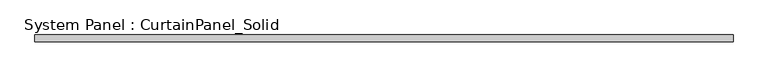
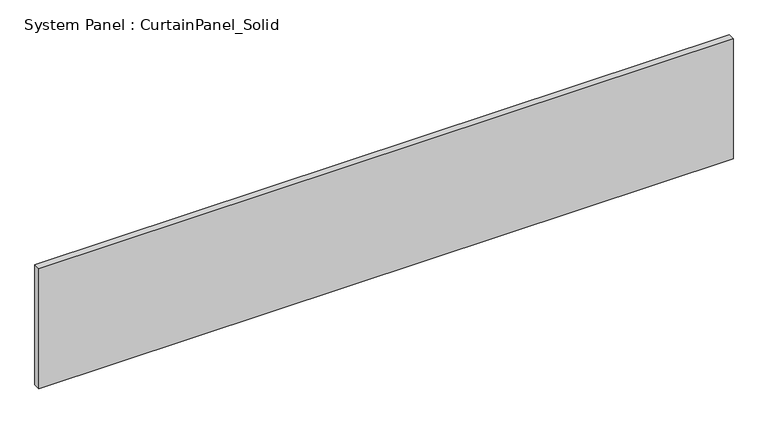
"""IFC4 building model written with IfcOpenShell, lengths in millimetres: plate geometry, System Panel : CurtainPanel_Solid."""

from ifc_helpers import new_model, si_unit, origin, origin_with_axes, place, context, project, spatial, polyline, outline, extrude, source, transform, mapped, element, save


def system_panel_curtainpanel_solid_2c86f8c4(model_context):
    return source(origin(), model_context, "Body", "SweptSolid", [
        extrude(outline(polyline([(1271.6666668, -12.5), (-1271.6666668, -12.5), (-1271.6666668, 12.5), (1271.6666668, 12.5), (1271.6666668, -12.5)])), origin_with_axes(), (0.0, 0.0, 1.0), 465.0),
    ])


if __name__ == "__main__":
    model = new_model("IFC4")
    model_context = context("Model", 3, world=origin())
    ifc_project = project(units=[si_unit("LENGTHUNIT", "METRE", prefix="MILLI")], contexts=[model_context])
    site = spatial("IfcSite", under=ifc_project)
    building = spatial("IfcBuilding", under=site)
    placement = place(None, origin())
    system_panel_curtainpanel_solid_shape = system_panel_curtainpanel_solid_2c86f8c4(model_context)
    element("IfcPlate", 1, ObjectType="System Panel : CurtainPanel_Solid", at=placement, inside=building, context=model_context, shape_type="MappedRepresentation", body=[
        mapped(system_panel_curtainpanel_solid_shape, transform((0.0, 0.0, 0.0), x_axis=(1.0, 0.0, 0.0), y_axis=(0.0, 1.0, 0.0), z_axis=(0.0, 0.0, 1.0))),
    ])
    save(model, "model.ifc")
